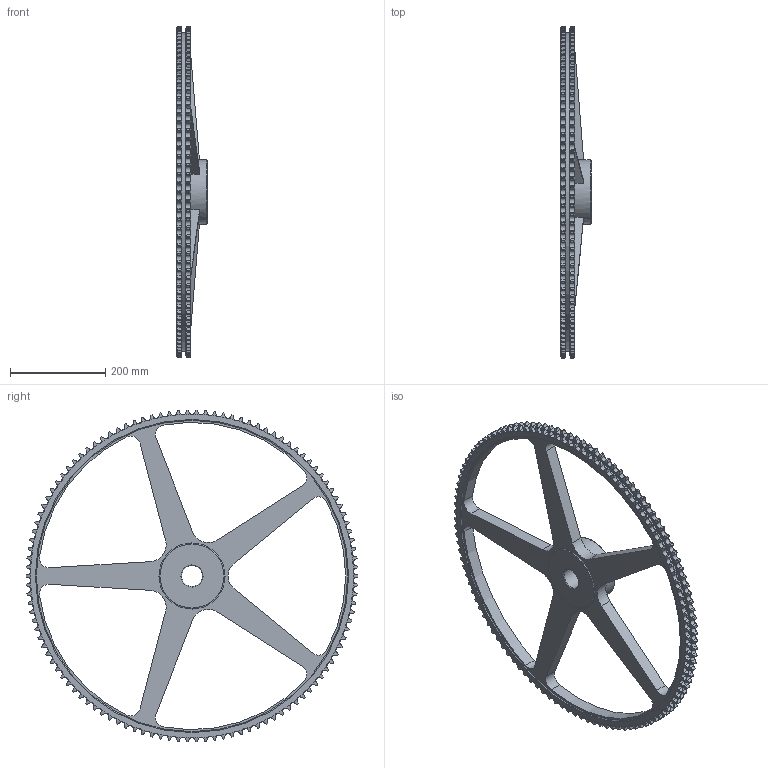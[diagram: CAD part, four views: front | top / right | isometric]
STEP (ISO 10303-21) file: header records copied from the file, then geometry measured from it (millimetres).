
FILE_DESCRIPTION(/* description */ (''),/* implementation_level */ '2;1');
FILE_NAME(/* name */ 'C:\Users\stagistacad\Desktop\12219114.stp',/* time_stamp */ '2018-06-21T14:39:54+02:00',/* author */ ('stagistacad'),/* organization */ (''),/* preprocessor_version */ 'ST-DEVELOPER v15.6',/* originating_system */ 'Autodesk Inventor 2015',/* authorisation */ '');
FILE_SCHEMA (('AUTOMOTIVE_DESIGN { 1 0 10303 214 3 1 1 }'));
Products named in the file (1): 12219114
Bounding box: 65 x 698.89 x 698.71 mm (x, y, z)
Volume: 3600955 mm3; surface area: 528435.3 mm2
Topology: 1 solids, 1 shells, 1458 faces, 4781 edges, 3102 vertices
Faces by surface type: cylinder 953, torus 352, plane 146, cone 7
Full cylindrical faces by diameter (mm): 44 x1, 135 x2, 659.247 x2, 670.89 x1
Entity records: 58432 total; most frequent: CARTESIAN_POINT 18232, ORIENTED_EDGE 9542, DIRECTION 7745, EDGE_CURVE 4766, AXIS2_PLACEMENT_3D 3374, VERTEX_POINT 3100, CIRCLE 1915, B_SPLINE_CURVE_WITH_KNOTS 1844
